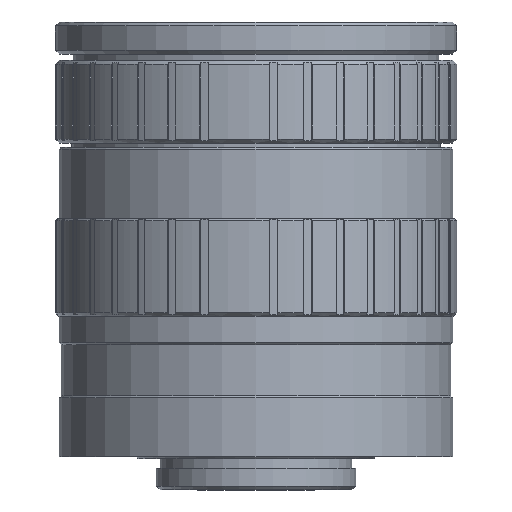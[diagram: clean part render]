
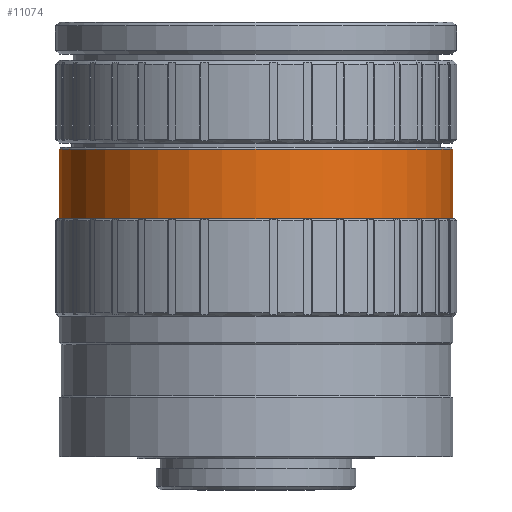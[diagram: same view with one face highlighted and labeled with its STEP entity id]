
A CAD part, front view. The second image highlights one B-rep face of the part: STEP entity #11074.
In plain terms, the highlighted cylindrical face has radius 25 mm (diameter 50 mm), a partial arc.
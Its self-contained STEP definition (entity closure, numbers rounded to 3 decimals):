
#47 = DIRECTION ( 'NONE',  ( -1., 0., 0. ) ) ;
#229 = LINE ( 'NONE', #6369, #9596 ) ;
#797 = CARTESIAN_POINT ( 'NONE',  ( 25., 0., 39.34 ) ) ;
#833 = DIRECTION ( 'NONE',  ( 0., 0., -1. ) ) ;
#2106 = FACE_OUTER_BOUND ( 'NONE', #10706, .T. ) ;
#2624 = CARTESIAN_POINT ( 'NONE',  ( -25., 0., 30.5 ) ) ;
#2900 = CARTESIAN_POINT ( 'NONE',  ( 0., 0., 39.34 ) ) ;
#3028 = VERTEX_POINT ( 'NONE', #10352 ) ;
#3302 = DIRECTION ( 'NONE',  ( -1., 0., 0. ) ) ;
#3575 = CIRCLE ( 'NONE', #10104, 25. ) ;
#3649 = EDGE_CURVE ( 'NONE', #7807, #3028, #3894, .T. ) ;
#3775 = AXIS2_PLACEMENT_3D ( 'NONE', #2900, #9205, #3831 ) ;
#3831 = DIRECTION ( 'NONE',  ( -1., 0., 0. ) ) ;
#3894 = LINE ( 'NONE', #6945, #10719 ) ;
#4160 = EDGE_CURVE ( 'NONE', #7807, #5155, #7198, .T. ) ;
#4187 = CARTESIAN_POINT ( 'NONE',  ( -25., 0., 39.34 ) ) ;
#4872 = EDGE_CURVE ( 'NONE', #3028, #7492, #3575, .T. ) ;
#5101 = ORIENTED_EDGE ( 'NONE', *, *, #4160, .T. ) ;
#5155 = VERTEX_POINT ( 'NONE', #4187 ) ;
#5615 = DIRECTION ( 'NONE',  ( 0., 0., -1. ) ) ;
#5622 = EDGE_CURVE ( 'NONE', #5155, #7492, #229, .T. ) ;
#6369 = CARTESIAN_POINT ( 'NONE',  ( -25., 0., 0.28 ) ) ;
#6945 = CARTESIAN_POINT ( 'NONE',  ( 25., 0., 0.28 ) ) ;
#7198 = CIRCLE ( 'NONE', #3775, 25. ) ;
#7492 = VERTEX_POINT ( 'NONE', #2624 ) ;
#7807 = VERTEX_POINT ( 'NONE', #797 ) ;
#8543 = ORIENTED_EDGE ( 'NONE', *, *, #5622, .T. ) ;
#8712 = DIRECTION ( 'NONE',  ( 0., 0., -1. ) ) ;
#9052 = CYLINDRICAL_SURFACE ( 'NONE', #9743, 25. ) ;
#9205 = DIRECTION ( 'NONE',  ( 0., 0., -1. ) ) ;
#9369 = ORIENTED_EDGE ( 'NONE', *, *, #3649, .F. ) ;
#9596 = VECTOR ( 'NONE', #833, 1000. ) ;
#9743 = AXIS2_PLACEMENT_3D ( 'NONE', #11280, #10449, #3302 ) ;
#10104 = AXIS2_PLACEMENT_3D ( 'NONE', #10862, #5615, #47 ) ;
#10352 = CARTESIAN_POINT ( 'NONE',  ( 25., 0., 30.5 ) ) ;
#10449 = DIRECTION ( 'NONE',  ( 0., 0., -1. ) ) ;
#10706 = EDGE_LOOP ( 'NONE', ( #9369, #5101, #8543, #11612 ) ) ;
#10719 = VECTOR ( 'NONE', #8712, 1000. ) ;
#10862 = CARTESIAN_POINT ( 'NONE',  ( 0., 0., 30.5 ) ) ;
#11074 = ADVANCED_FACE ( 'NONE', ( #2106 ), #9052, .T. ) ;
#11280 = CARTESIAN_POINT ( 'NONE',  ( 0., 0., 0.28 ) ) ;
#11612 = ORIENTED_EDGE ( 'NONE', *, *, #4872, .F. ) ;
